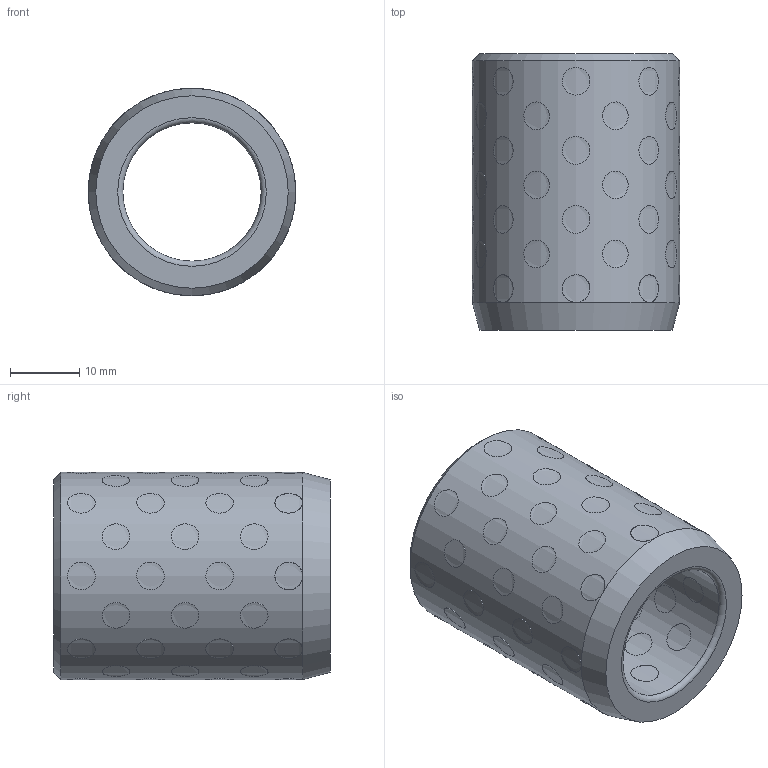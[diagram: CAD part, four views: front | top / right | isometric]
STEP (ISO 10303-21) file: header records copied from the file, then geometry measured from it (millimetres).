
FILE_DESCRIPTION( ( 'STEP AP203' ), '1' );
FILE_NAME( 'D:/Cuma/18 03 2010/D30.04/D30.04_204030.step', '2003-01-24T23:24:30', ( ' ' ), ( ' ' ), 'XStep 1.0', ' ', ' ' );
FILE_SCHEMA( ( 'CONFIG_CONTROL_DESIGN' ) );
Length unit declared in the file: metre
Products named in the file (65): 1; 2; 3; 4; 5; 6; 7; 8; 9; 10; 11; 12; 13; 14; 15; 16; 17; 18; 19; 20; 21; 22; 23; 24; 25; 26; 27; 28; 29; 30; 31; 32; 33; 34; 35; 36; 37; 38; 39; 40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
Bounding box: 30 x 40 x 30 mm (x, y, z)
Volume: 19484 mm3; surface area: 12536.9 mm2
Topology: 65 solids, 65 shells, 200 faces, 206 edges, 136 vertices
Faces by surface type: cylinder 194, torus 2, plane 2, cone 2
Full cylindrical faces by diameter (mm): 4 x64, 20 x1, 30 x1
Entity records: 12629 total; most frequent: CARTESIAN_POINT 7321, DIRECTION 546, CC_DESIGN_PERSON_AND_ORGANIZATION_ASSIGNMENT 325, AXIS2_PLACEMENT_3D 273, EDGE_LOOP 272, ORIENTED_EDGE 272, FACE_OUTER_BOUND 268, PERSON_AND_ORGANIZATION_ROLE 260
